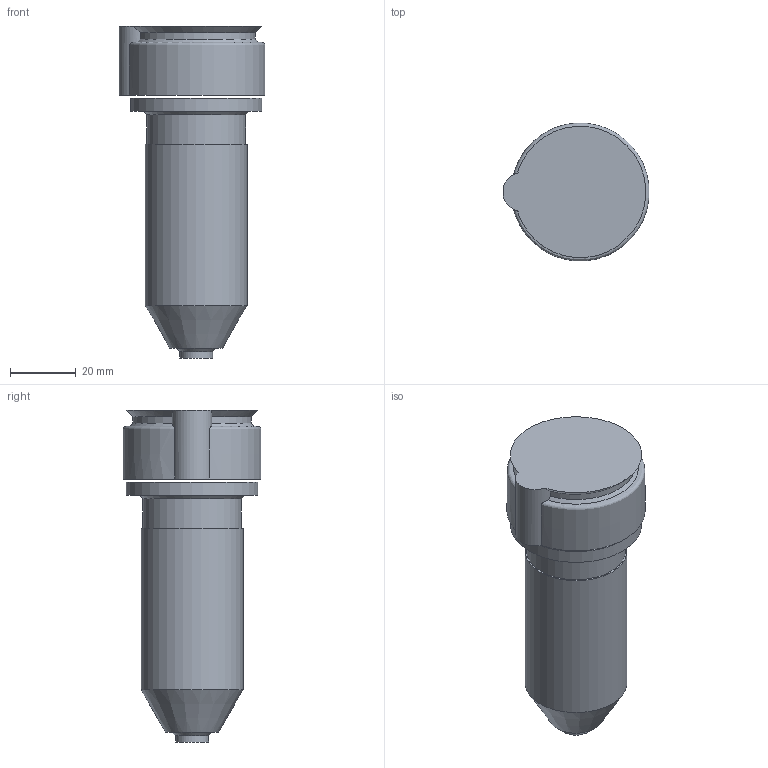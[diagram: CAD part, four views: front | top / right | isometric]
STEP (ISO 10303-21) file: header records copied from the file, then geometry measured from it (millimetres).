
FILE_DESCRIPTION(('STEP AP214'),'1');
FILE_NAME('SEDE IPM300-C.stp','2018-06-13T10:10:17',(' '),(' '),'Spatial InterOp 3D',' ',' ');
FILE_SCHEMA(('AUTOMOTIVE_DESIGN { 1 0 10303 214 1 1 1 1 }'));
Length unit declared in the file: millimetre
Products named in the file (1): 1
Bounding box: 44.4 x 41.9 x 101 mm (x, y, z)
Volume: 83351.7 mm3; surface area: 15174 mm2
Topology: 2 solids, 2 shells, 19 faces, 33 edges, 21 vertices
Faces by surface type: plane 7, cylinder 6, cone 5, revolution 1
Full cylindrical faces by diameter (mm): 10 x1, 30 x1, 31 x1, 40 x1
Entity records: 649 total; most frequent: CARTESIAN_POINT 131, DIRECTION 79, ORIENTED_EDGE 52, AXIS2_PLACEMENT_3D 38, EDGE_LOOP 29, EDGE_CURVE 26, FACE_OUTER_BOUND 23, VERTEX_POINT 21
